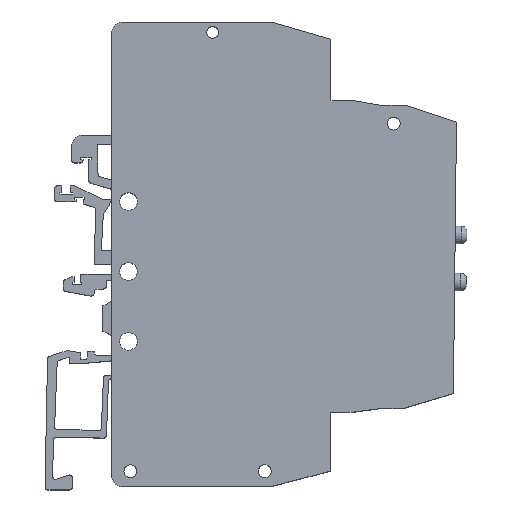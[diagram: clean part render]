
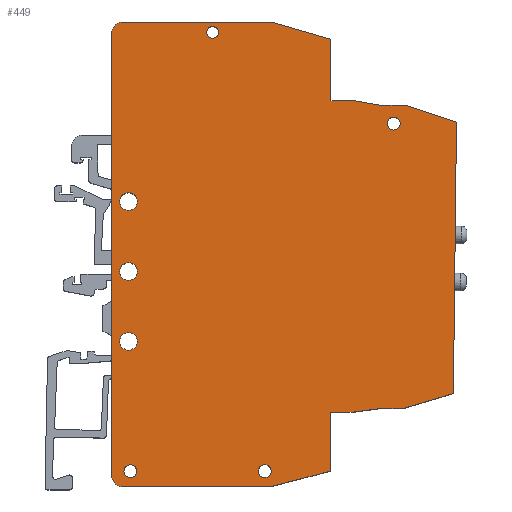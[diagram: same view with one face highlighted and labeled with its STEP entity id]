
A CAD part, top view. The second image highlights one B-rep face of the part: STEP entity #449.
In plain terms, the highlighted planar face has unit normal (0, 0, 1).
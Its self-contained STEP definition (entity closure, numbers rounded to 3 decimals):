
#449=ADVANCED_FACE('',(#2355,#2357,#2359,#2361,#2363,#2365,#2367,#2369),#2371,.T.);
#2355=FACE_BOUND('',#2356,.T.);
#2356=EDGE_LOOP('',(#3783,#3784,#3785,#3786,#3787,#3788,#3789,#3790,#3791,#3792,
#3793,#3794,#3795,#3796,#3797,#3798,#3799,#3800));
#2357=FACE_BOUND('',#2358,.T.);
#2358=EDGE_LOOP('',(#3801));
#2359=FACE_BOUND('',#2360,.T.);
#2360=EDGE_LOOP('',(#3802));
#2361=FACE_BOUND('',#2362,.T.);
#2362=EDGE_LOOP('',(#3803));
#2363=FACE_BOUND('',#2364,.T.);
#2364=EDGE_LOOP('',(#3804));
#2365=FACE_BOUND('',#2366,.T.);
#2366=EDGE_LOOP('',(#3805));
#2367=FACE_BOUND('',#2368,.T.);
#2368=EDGE_LOOP('',(#3806));
#2369=FACE_BOUND('',#2370,.T.);
#2370=EDGE_LOOP('',(#3807));
#2371=PLANE('',#2372);
#2372=AXIS2_PLACEMENT_3D('',#2373,#2374,#2375);
#2373=CARTESIAN_POINT('',(0.,0.,9.9));
#2374=DIRECTION('',(-0.,0.,1.));
#2375=DIRECTION('',(1.,0.,0.));
#3783=ORIENTED_EDGE('',*,*,#4777,.F.);
#3784=ORIENTED_EDGE('',*,*,#4780,.F.);
#3785=ORIENTED_EDGE('',*,*,#4791,.F.);
#3786=ORIENTED_EDGE('',*,*,#4794,.F.);
#3787=ORIENTED_EDGE('',*,*,#4799,.F.);
#3788=ORIENTED_EDGE('',*,*,#4721,.F.);
#3789=ORIENTED_EDGE('',*,*,#4805,.F.);
#3790=ORIENTED_EDGE('',*,*,#4810,.F.);
#3791=ORIENTED_EDGE('',*,*,#4813,.F.);
#3792=ORIENTED_EDGE('',*,*,#4816,.F.);
#3793=ORIENTED_EDGE('',*,*,#4821,.F.);
#3794=ORIENTED_EDGE('',*,*,#4824,.F.);
#3795=ORIENTED_EDGE('',*,*,#4827,.F.);
#3796=ORIENTED_EDGE('',*,*,#4832,.F.);
#3797=ORIENTED_EDGE('',*,*,#4835,.F.);
#3798=ORIENTED_EDGE('',*,*,#4838,.F.);
#3799=ORIENTED_EDGE('',*,*,#4848,.T.);
#3800=ORIENTED_EDGE('',*,*,#4737,.F.);
#3801=ORIENTED_EDGE('',*,*,#4699,.F.);
#3802=ORIENTED_EDGE('',*,*,#4701,.F.);
#3803=ORIENTED_EDGE('',*,*,#4703,.F.);
#3804=ORIENTED_EDGE('',*,*,#4705,.F.);
#3805=ORIENTED_EDGE('',*,*,#4715,.F.);
#3806=ORIENTED_EDGE('',*,*,#4717,.F.);
#3807=ORIENTED_EDGE('',*,*,#4697,.F.);
#4697=EDGE_CURVE('',#5282,#5282,#5283,.T.);
#4699=EDGE_CURVE('',#5286,#5286,#5287,.T.);
#4701=EDGE_CURVE('',#5290,#5290,#5291,.T.);
#4703=EDGE_CURVE('',#5294,#5294,#5295,.T.);
#4705=EDGE_CURVE('',#5298,#5298,#5299,.T.);
#4715=EDGE_CURVE('',#5318,#5318,#5319,.T.);
#4717=EDGE_CURVE('',#5322,#5322,#5323,.T.);
#4721=EDGE_CURVE('',#5329,#5331,#5332,.T.);
#4737=EDGE_CURVE('',#5361,#5363,#5364,.T.);
#4777=EDGE_CURVE('',#5440,#5361,#5442,.T.);
#4780=EDGE_CURVE('',#5445,#5440,#5447,.T.);
#4791=EDGE_CURVE('',#5466,#5445,#5468,.T.);
#4794=EDGE_CURVE('',#5471,#5466,#5473,.T.);
#4799=EDGE_CURVE('',#5331,#5471,#5480,.T.);
#4805=EDGE_CURVE('',#5488,#5329,#5490,.T.);
#4810=EDGE_CURVE('',#5495,#5488,#5497,.T.);
#4813=EDGE_CURVE('',#5500,#5495,#5502,.T.);
#4816=EDGE_CURVE('',#5505,#5500,#5507,.T.);
#4821=EDGE_CURVE('',#5512,#5505,#5514,.T.);
#4824=EDGE_CURVE('',#5517,#5512,#5519,.T.);
#4827=EDGE_CURVE('',#5522,#5517,#5524,.T.);
#4832=EDGE_CURVE('',#5529,#5522,#5531,.T.);
#4835=EDGE_CURVE('',#5534,#5529,#5536,.T.);
#4838=EDGE_CURVE('',#5539,#5534,#5541,.T.);
#4848=EDGE_CURVE('',#5539,#5363,#5559,.T.);
#5282=VERTEX_POINT('',#6303);
#5283=CIRCLE('',#6304,1.5);
#5286=VERTEX_POINT('',#6313);
#5287=CIRCLE('',#6314,1.1);
#5290=VERTEX_POINT('',#6323);
#5291=CIRCLE('',#6324,1.1);
#5294=VERTEX_POINT('',#6333);
#5295=CIRCLE('',#6334,1.1);
#5298=VERTEX_POINT('',#6343);
#5299=CIRCLE('',#6344,1.);
#5318=VERTEX_POINT('',#6389);
#5319=CIRCLE('',#6390,1.5);
#5322=VERTEX_POINT('',#6399);
#5323=CIRCLE('',#6400,1.5);
#5329=VERTEX_POINT('',#6414);
#5331=VERTEX_POINT('',#6418);
#5332=LINE('',#6419,#6420);
#5361=VERTEX_POINT('',#6478);
#5363=VERTEX_POINT('',#6482);
#5364=LINE('',#6483,#6484);
#5440=VERTEX_POINT('',#6638);
#5442=CIRCLE('',#6642,2.);
#5445=VERTEX_POINT('',#6650);
#5447=LINE('',#6654,#6655);
#5466=VERTEX_POINT('',#6693);
#5468=LINE('',#6697,#6698);
#5471=VERTEX_POINT('',#6704);
#5473=LINE('',#6708,#6709);
#5480=LINE('',#6725,#6726);
#5488=VERTEX_POINT('',#6743);
#5490=LINE('',#6747,#6748);
#5495=VERTEX_POINT('',#6760);
#5497=LINE('',#6764,#6765);
#5500=VERTEX_POINT('',#6771);
#5502=LINE('',#6775,#6776);
#5505=VERTEX_POINT('',#6782);
#5507=LINE('',#6786,#6787);
#5512=VERTEX_POINT('',#6799);
#5514=LINE('',#6803,#6804);
#5517=VERTEX_POINT('',#6810);
#5519=LINE('',#6814,#6815);
#5522=VERTEX_POINT('',#6821);
#5524=LINE('',#6825,#6826);
#5529=VERTEX_POINT('',#6838);
#5531=LINE('',#6842,#6843);
#5534=VERTEX_POINT('',#6849);
#5536=LINE('',#6853,#6854);
#5539=VERTEX_POINT('',#6860);
#5541=LINE('',#6864,#6865);
#5559=CIRCLE('',#6903,2.);
#6303=CARTESIAN_POINT('',(1.384,8.97,9.9));
#6304=AXIS2_PLACEMENT_3D('',#6305,#6306,#6307);
#6305=CARTESIAN_POINT('',(2.884,8.97,9.9));
#6306=DIRECTION('',(-0.,0.,1.));
#6307=DIRECTION('',(-1.,0.,-0.));
#6313=CARTESIAN_POINT('',(24.942,-36.848,9.9));
#6314=AXIS2_PLACEMENT_3D('',#6315,#6316,#6317);
#6315=CARTESIAN_POINT('',(26.042,-36.848,9.9));
#6316=DIRECTION('',(-0.,0.,1.));
#6317=DIRECTION('',(-1.,0.,-0.));
#6323=CARTESIAN_POINT('',(2.094,-36.848,9.9));
#6324=AXIS2_PLACEMENT_3D('',#6325,#6326,#6327);
#6325=CARTESIAN_POINT('',(3.194,-36.848,9.9));
#6326=DIRECTION('',(-0.,0.,1.));
#6327=DIRECTION('',(-1.,0.,-0.));
#6333=CARTESIAN_POINT('',(46.858,22.235,9.9));
#6334=AXIS2_PLACEMENT_3D('',#6335,#6336,#6337);
#6335=CARTESIAN_POINT('',(47.958,22.235,9.9));
#6336=DIRECTION('',(-0.,0.,1.));
#6337=DIRECTION('',(-1.,0.,-0.));
#6343=CARTESIAN_POINT('',(16.174,37.746,9.9));
#6344=AXIS2_PLACEMENT_3D('',#6345,#6346,#6347);
#6345=CARTESIAN_POINT('',(17.174,37.746,9.9));
#6346=DIRECTION('',(-0.,0.,1.));
#6347=DIRECTION('',(-1.,0.,-0.));
#6389=CARTESIAN_POINT('',(1.384,-2.907,9.9));
#6390=AXIS2_PLACEMENT_3D('',#6391,#6392,#6393);
#6391=CARTESIAN_POINT('',(2.884,-2.907,9.9));
#6392=DIRECTION('',(-0.,0.,1.));
#6393=DIRECTION('',(-1.,0.,-0.));
#6399=CARTESIAN_POINT('',(1.384,-14.784,9.9));
#6400=AXIS2_PLACEMENT_3D('',#6401,#6402,#6403);
#6401=CARTESIAN_POINT('',(2.884,-14.784,9.9));
#6402=DIRECTION('',(-0.,0.,1.));
#6403=DIRECTION('',(-1.,0.,-0.));
#6414=CARTESIAN_POINT('',(45.775,-26.199,9.9));
#6418=CARTESIAN_POINT('',(41.054,-26.812,9.9));
#6419=CARTESIAN_POINT('',(45.775,-26.199,9.9));
#6420=VECTOR('',#6421,1.);
#6421=DIRECTION('',(-0.992,-0.129,0.));
#6478=CARTESIAN_POINT('',(0.,-37.5,9.9));
#6482=CARTESIAN_POINT('',(0.,37.503,9.9));
#6483=CARTESIAN_POINT('',(0.,-37.5,9.9));
#6484=VECTOR('',#6485,1.);
#6485=DIRECTION('',(0.,1.,0.));
#6638=CARTESIAN_POINT('',(2.,-39.5,9.9));
#6642=AXIS2_PLACEMENT_3D('',#6643,#6644,#6645);
#6643=CARTESIAN_POINT('',(2.,-37.5,9.9));
#6644=DIRECTION('',(0.,0.,-1.));
#6645=DIRECTION('',(0.,-1.,0.));
#6650=CARTESIAN_POINT('',(27.023,-39.5,9.9));
#6654=CARTESIAN_POINT('',(27.023,-39.5,9.9));
#6655=VECTOR('',#6656,1.);
#6656=DIRECTION('',(-1.,0.,0.));
#6693=CARTESIAN_POINT('',(37.164,-36.845,9.9));
#6697=CARTESIAN_POINT('',(37.164,-36.845,9.9));
#6698=VECTOR('',#6699,1.);
#6699=DIRECTION('',(-0.967,-0.253,0.));
#6704=CARTESIAN_POINT('',(37.164,-26.812,9.9));
#6708=CARTESIAN_POINT('',(37.164,-26.812,9.9));
#6709=VECTOR('',#6710,1.);
#6710=DIRECTION('',(0.,-1.,0.));
#6725=CARTESIAN_POINT('',(41.054,-26.812,9.9));
#6726=VECTOR('',#6727,1.);
#6727=DIRECTION('',(-1.,0.,0.));
#6743=CARTESIAN_POINT('',(49.554,-26.199,9.9));
#6747=CARTESIAN_POINT('',(49.554,-26.199,9.9));
#6748=VECTOR('',#6749,1.);
#6749=DIRECTION('',(-1.,0.,0.));
#6760=CARTESIAN_POINT('',(58.101,-23.631,9.9));
#6764=CARTESIAN_POINT('',(58.101,-23.631,9.9));
#6765=VECTOR('',#6766,1.);
#6766=DIRECTION('',(-0.958,-0.288,0.));
#6771=CARTESIAN_POINT('',(58.625,22.504,9.9));
#6775=CARTESIAN_POINT('',(58.625,22.504,9.9));
#6776=VECTOR('',#6777,1.);
#6777=DIRECTION('',(-0.011,-1.,0.));
#6782=CARTESIAN_POINT('',(50.073,25.337,9.9));
#6786=CARTESIAN_POINT('',(50.073,25.337,9.9));
#6787=VECTOR('',#6788,1.);
#6788=DIRECTION('',(0.949,-0.314,0.));
#6799=CARTESIAN_POINT('',(45.775,25.337,9.9));
#6803=CARTESIAN_POINT('',(45.775,25.337,9.9));
#6804=VECTOR('',#6805,1.);
#6805=DIRECTION('',(1.,0.,0.));
#6810=CARTESIAN_POINT('',(41.054,26.146,9.9));
#6814=CARTESIAN_POINT('',(41.054,26.146,9.9));
#6815=VECTOR('',#6816,1.);
#6816=DIRECTION('',(0.986,-0.169,0.));
#6821=CARTESIAN_POINT('',(37.296,26.146,9.9));
#6825=CARTESIAN_POINT('',(37.296,26.146,9.9));
#6826=VECTOR('',#6827,1.);
#6827=DIRECTION('',(1.,0.,0.));
#6838=CARTESIAN_POINT('',(37.296,36.57,9.9));
#6842=CARTESIAN_POINT('',(37.296,36.57,9.9));
#6843=VECTOR('',#6844,1.);
#6844=DIRECTION('',(0.,-1.,0.));
#6849=CARTESIAN_POINT('',(27.169,39.503,9.9));
#6853=CARTESIAN_POINT('',(27.169,39.503,9.9));
#6854=VECTOR('',#6855,1.);
#6855=DIRECTION('',(0.961,-0.278,0.));
#6860=CARTESIAN_POINT('',(2.,39.503,9.9));
#6864=CARTESIAN_POINT('',(2.,39.503,9.9));
#6865=VECTOR('',#6866,1.);
#6866=DIRECTION('',(1.,0.,0.));
#6903=AXIS2_PLACEMENT_3D('',#6904,#6905,#6906);
#6904=CARTESIAN_POINT('',(2.,37.503,9.9));
#6905=DIRECTION('',(-0.,0.,1.));
#6906=DIRECTION('',(0.,1.,0.));
